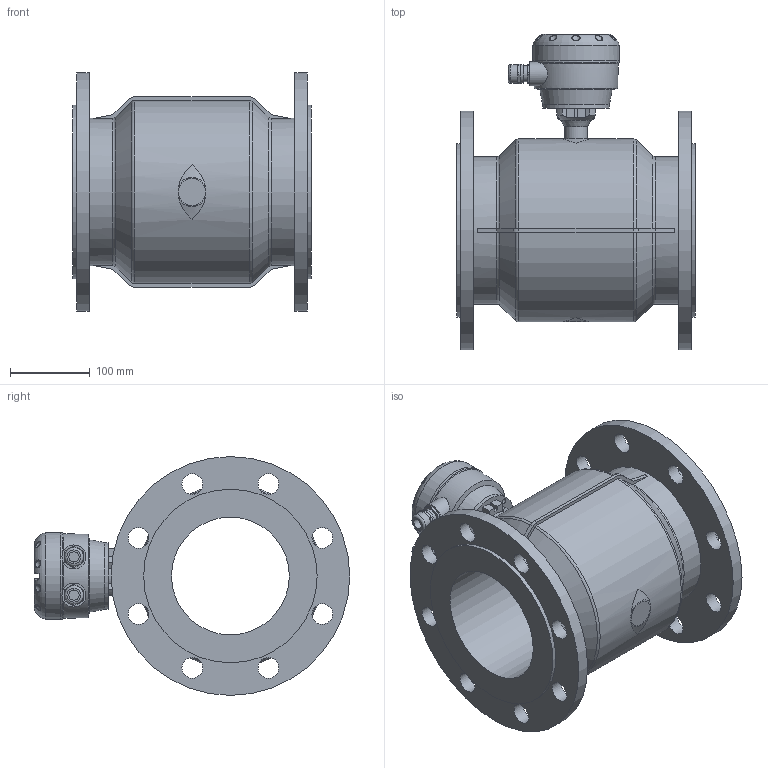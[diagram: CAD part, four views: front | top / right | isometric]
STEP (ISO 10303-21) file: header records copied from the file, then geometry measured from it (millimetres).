
FILE_DESCRIPTION (( 'STEP AP203' ), '1' );
FILE_NAME ('KROHNE_OPTIFLUX_2-4000W_DIN2634_DN150_PN25.STEP', '2011-07-04T14:25:15', ( '' ), ( '' ), 'SwSTEP 2.0', 'SolidWorks 2010', '' );
FILE_SCHEMA (( 'CONFIG_CONTROL_DESIGN' ));
Length unit declared in the file: millimetre
Products named in the file (1): KROHNE_OPTIFLUX_2-4000W_DIN2634_DN150_PN25
Bounding box: 300 x 396.49 x 300 mm (x, y, z)
Volume: 7570831.6 mm3; surface area: 667358.8 mm2
Topology: 14 solids, 14 shells, 391 faces, 976 edges, 634 vertices
Faces by surface type: plane 179, cylinder 102, bspline 53, torus 30, cone 14, sphere 13
Full cylindrical faces by diameter (mm): 4 x4, 6.6 x8, 13 x2, 20 x2, 23.5 x4, 26 x16, 29 x1, 30 x2, 84 x2, 109 x1, 148 x1, 185 x2, 218 x2, 300 x2
Entity records: 15848 total; most frequent: CARTESIAN_POINT 7109, ORIENTED_EDGE 1746, DIRECTION 1657, EDGE_CURVE 873, AXIS2_PLACEMENT_3D 615, VERTEX_POINT 607, EDGE_LOOP 548, FACE_OUTER_BOUND 457
